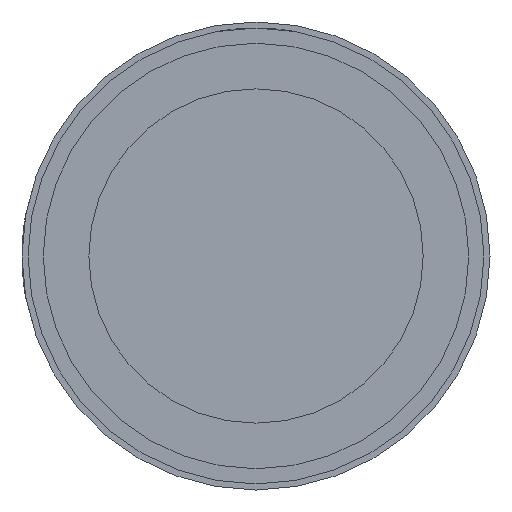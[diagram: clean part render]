
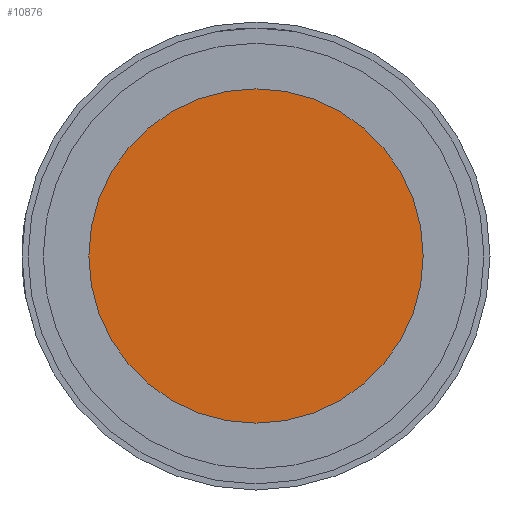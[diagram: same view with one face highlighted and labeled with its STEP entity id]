
A CAD part, left-side view. The second image highlights one B-rep face of the part: STEP entity #10876.
In plain terms, the highlighted planar face has unit normal (-1, 0, 0).
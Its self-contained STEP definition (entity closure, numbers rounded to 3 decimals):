
#94 = EDGE_CURVE ( 'NONE', #4261, #7300, #3611, .T. ) ;
#337 = AXIS2_PLACEMENT_3D ( 'NONE', #4375, #15474, #12669 ) ;
#1654 = DIRECTION ( 'NONE',  ( 0., 0., -1. ) ) ;
#2168 = FACE_OUTER_BOUND ( 'NONE', #16922, .T. ) ;
#3222 = EDGE_CURVE ( 'NONE', #7300, #4261, #16149, .T. ) ;
#3611 = CIRCLE ( 'NONE', #14036, 27.5 ) ;
#4261 = VERTEX_POINT ( 'NONE', #14046 ) ;
#4375 = CARTESIAN_POINT ( 'NONE',  ( -288., 0., 0. ) ) ;
#6730 = CARTESIAN_POINT ( 'NONE',  ( -288., 0., 0. ) ) ;
#7300 = VERTEX_POINT ( 'NONE', #10111 ) ;
#7862 = PLANE ( 'NONE',  #12088 ) ;
#8104 = ORIENTED_EDGE ( 'NONE', *, *, #94, .F. ) ;
#10111 = CARTESIAN_POINT ( 'NONE',  ( -288., 0., -27.5 ) ) ;
#10876 = ADVANCED_FACE ( 'NONE', ( #2168 ), #7862, .F. ) ;
#11539 = CARTESIAN_POINT ( 'NONE',  ( -288., 0., 0. ) ) ;
#12088 = AXIS2_PLACEMENT_3D ( 'NONE', #6730, #13552, #18131 ) ;
#12669 = DIRECTION ( 'NONE',  ( 0., 0., -1. ) ) ;
#13552 = DIRECTION ( 'NONE',  ( 1., 0., 0. ) ) ;
#14036 = AXIS2_PLACEMENT_3D ( 'NONE', #11539, #16117, #1654 ) ;
#14046 = CARTESIAN_POINT ( 'NONE',  ( -288., 0., 27.5 ) ) ;
#15103 = ORIENTED_EDGE ( 'NONE', *, *, #3222, .F. ) ;
#15474 = DIRECTION ( 'NONE',  ( 1., 0., 0. ) ) ;
#16117 = DIRECTION ( 'NONE',  ( 1., 0., 0. ) ) ;
#16149 = CIRCLE ( 'NONE', #337, 27.5 ) ;
#16922 = EDGE_LOOP ( 'NONE', ( #15103, #8104 ) ) ;
#18131 = DIRECTION ( 'NONE',  ( 0., 0., -1. ) ) ;
